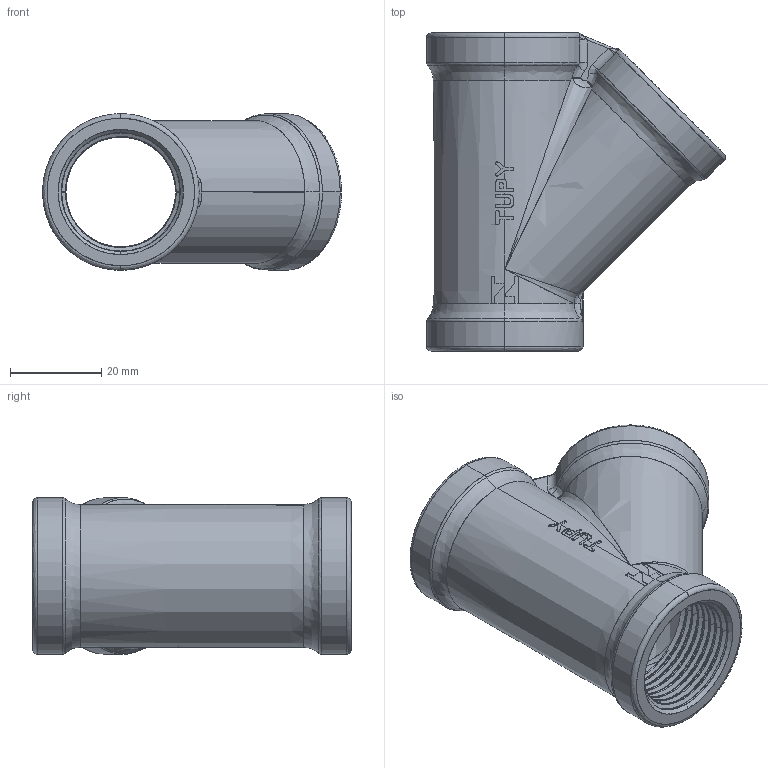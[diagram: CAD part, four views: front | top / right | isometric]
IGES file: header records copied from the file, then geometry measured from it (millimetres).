
Start section: SolidWorks IGES file using analytic representation for surfaces
Global section: file name: C:\Users\Joel Rosa\Desktop\Tubulação\12-54-XXX\12-54-006.IGS; native system: SolidWorks 2011; preprocessor: SolidWorks 2011; author: Joel Rosa; date: 121213.023847; units: millimetre
Bounding box: 65.71 x 70 x 34.4 mm (x, y, z)
Surface area: 20617.4 mm2 (no closed solid volume)
Topology: 0 solids, 0 shells, 473 faces, 4044 edges, 4025 vertices
Faces by surface type: bspline 322, revolution 151
